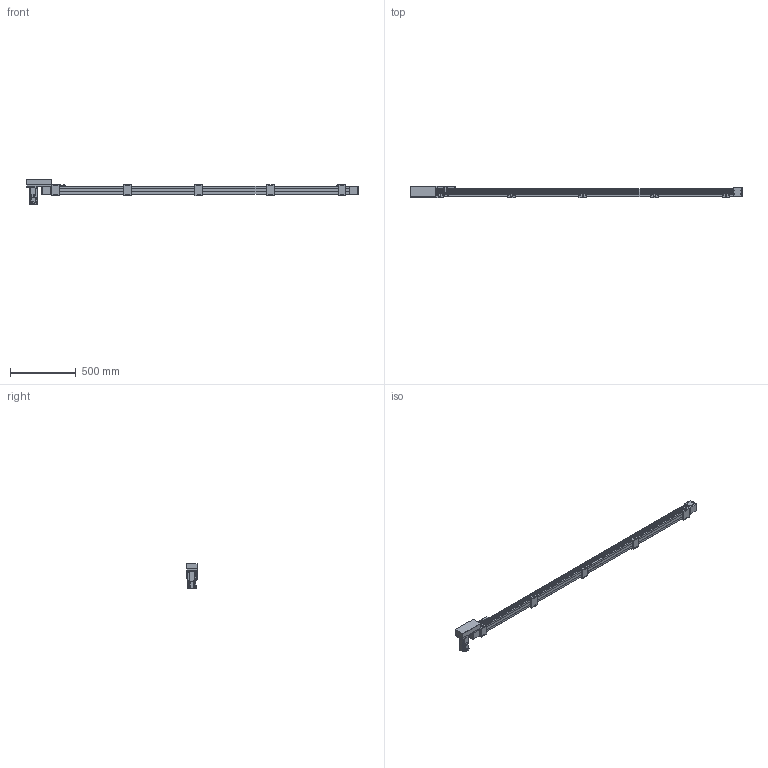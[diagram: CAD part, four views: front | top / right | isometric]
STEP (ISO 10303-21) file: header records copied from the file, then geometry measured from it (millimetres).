
FILE_DESCRIPTION(/* description */ ('STEP AP214'),/* implementation_level */ '2;1');
FILE_NAME(/* name */ 'SK60-P13-S2100-R-T40-C1-N(0)',/* time_stamp */ '2023-04-06T04:28:16+02:00',/* author */ ('License CC BY-ND 4.0'),/* organization */ ('CADENAS'),/* preprocessor_version */ 'ST-DEVELOPER v19.3',/* originating_system */ 'PARTsolutions',/* authorisation */ ' ');
FILE_SCHEMA (('AUTOMOTIVE_DESIGN {1 0 10303 214 3 1 1}'));
Length unit declared in the file: millimetre
Products named in the file (10): SK60-P13-S2100-R-T40-C1-N(0); PSC140-sensor; SK60-S450_seat; SK60-S450-BL-C1_slider; SK60_body3; SK60_body6; SK60-BL_body2; T40-p1; SK60-R_fb; SK60-S2100-R-C1_body
Assembly tree (19 placements, depth 2):
  SK60-P13-S2100-R-T40-C1-N(0)
    PSC140-sensor  x3
    SK60-S450_seat  x5
    SK60-S450-BL-C1_slider
    SK60_body3  x3
    SK60_body6  x2
    SK60-BL_body2  x2
    T40-p1
    SK60-R_fb
    SK60-S2100-R-C1_body
Bounding box: 2520.5 x 90 x 189.7 mm (x, y, z)
Volume: 9391838 mm3; surface area: 1124480.4 mm2
Topology: 19 solids, 19 shells, 942 faces, 2342 edges, 1541 vertices
Faces by surface type: plane 596, cylinder 310, cone 34, torus 2
Full cylindrical faces by diameter (mm): 2.8 x3, 3.3 x4, 4 x2, 4.5 x30, 4.6 x3, 4.917 x28, 5 x6, 5.478 x4, 5.5 x31, 6.5 x10, 7 x2, 8 x4, 8.5 x4, 9.988 x4, 10 x20, 14 x1, 47 x3, 50 x2
Entity records: 18679 total; most frequent: DIRECTION 3190, CARTESIAN_POINT 3153, ORIENTED_EDGE 2940, EDGE_CURVE 1470, AXIS2_PLACEMENT_3D 1071, LINE 1048, VECTOR 1048, VERTEX_POINT 1034
